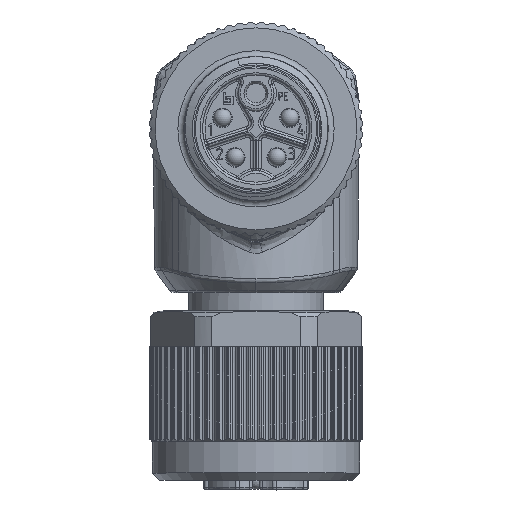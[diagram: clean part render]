
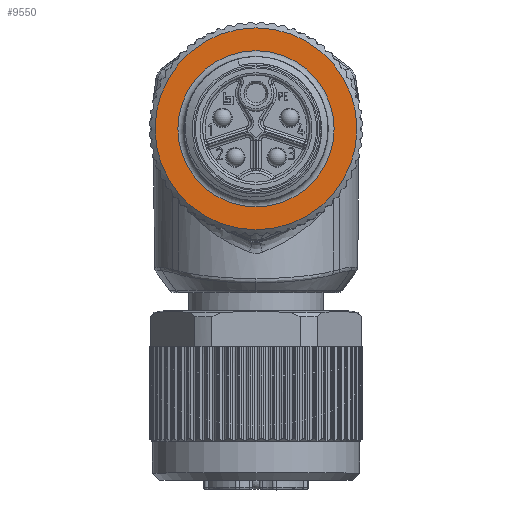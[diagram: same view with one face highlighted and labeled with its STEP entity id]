
A CAD part, top view. The second image highlights one B-rep face of the part: STEP entity #9550.
In plain terms, the highlighted planar face has unit normal (0, 0, 1).
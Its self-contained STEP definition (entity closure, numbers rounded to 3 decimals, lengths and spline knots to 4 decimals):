
#5257=PLANE('',#28796);
#9550=ADVANCED_FACE('',(#10755,#10756),#5257,.F.);
#10755=FACE_BOUND('',#11853,.T.);
#10756=FACE_BOUND('',#11854,.T.);
#11853=EDGE_LOOP('',(#17393));
#11854=EDGE_LOOP('',(#17394));
#17393=ORIENTED_EDGE('',*,*,#24839,.T.);
#17394=ORIENTED_EDGE('',*,*,#24838,.T.);
#21482=VERTEX_POINT('',#52860);
#21483=VERTEX_POINT('',#52863);
#24838=EDGE_CURVE('',#21482,#21482,#26803,.T.);
#24839=EDGE_CURVE('',#21483,#21483,#26804,.T.);
#26803=CIRCLE('',#28793,6.5);
#26804=CIRCLE('',#28795,8.4);
#28793=AXIS2_PLACEMENT_3D('',#52859,#33893,#33894);
#28795=AXIS2_PLACEMENT_3D('',#52862,#33897,#33898);
#28796=AXIS2_PLACEMENT_3D('',#52864,#33899,#33900);
#33893=DIRECTION('',(0.,0.,-1.));
#33894=DIRECTION('',(0.,1.,0.));
#33897=DIRECTION('',(0.,0.,1.));
#33898=DIRECTION('',(0.,1.,0.));
#33899=DIRECTION('',(0.,0.,-1.));
#33900=DIRECTION('',(0.,1.,0.));
#52859=CARTESIAN_POINT('',(0.,53.65,-9.3));
#52860=CARTESIAN_POINT('',(0.,60.15,-9.3));
#52862=CARTESIAN_POINT('',(0.,53.65,-9.3));
#52863=CARTESIAN_POINT('',(0.,62.05,-9.3));
#52864=CARTESIAN_POINT('',(0.,60.15,-9.3));
